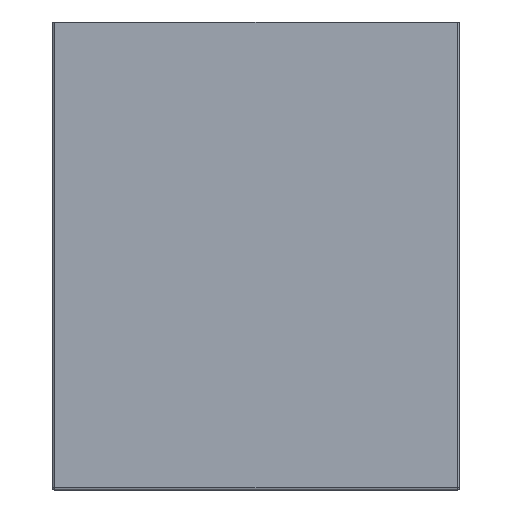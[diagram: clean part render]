
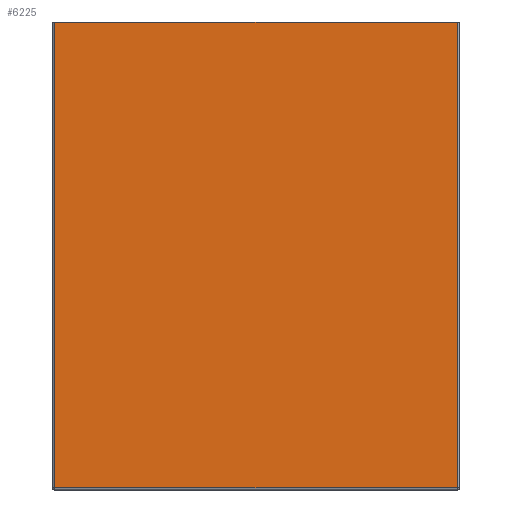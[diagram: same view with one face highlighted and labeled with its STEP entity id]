
A CAD part, left-side view. The second image highlights one B-rep face of the part: STEP entity #6225.
In plain terms, the highlighted planar face has unit normal (-1, 0, 0).
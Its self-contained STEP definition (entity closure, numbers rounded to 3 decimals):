
#6207=AXIS2_PLACEMENT_3D('Plane Axis2P3D',#6204,#6205,#6206) ;
#5817=CARTESIAN_POINT('Vertex',(-300.,-398.,460.)) ;
#5843=CARTESIAN_POINT('Vertex',(-300.,-2.,460.)) ;
#5846=CARTESIAN_POINT('Line Origine',(-300.,-200.,460.)) ;
#6017=CARTESIAN_POINT('Line Origine',(-300.,-105.,2.)) ;
#6021=CARTESIAN_POINT('Vertex',(-300.,-398.,2.)) ;
#6023=CARTESIAN_POINT('Vertex',(-300.,-2.,2.)) ;
#6204=CARTESIAN_POINT('Axis2P3D Location',(-300.,0.,0.)) ;
#6209=CARTESIAN_POINT('Line Origine',(-300.,-398.,231.)) ;
#6214=CARTESIAN_POINT('Line Origine',(-300.,-2.,231.)) ;
#5847=DIRECTION('Vector Direction',(0.,-1.,0.)) ;
#6018=DIRECTION('Vector Direction',(0.,1.,0.)) ;
#6205=DIRECTION('Axis2P3D Direction',(1.,0.,-0.)) ;
#6206=DIRECTION('Axis2P3D XDirection',(0.,0.,1.)) ;
#6210=DIRECTION('Vector Direction',(0.,0.,1.)) ;
#6215=DIRECTION('Vector Direction',(0.,0.,1.)) ;
#5848=VECTOR('Line Direction',#5847,1.) ;
#6019=VECTOR('Line Direction',#6018,1.) ;
#6211=VECTOR('Line Direction',#6210,1.) ;
#6216=VECTOR('Line Direction',#6215,1.) ;
#6220=ORIENTED_EDGE('',*,*,#6213,.T.) ;
#6221=ORIENTED_EDGE('',*,*,#5850,.T.) ;
#6222=ORIENTED_EDGE('',*,*,#6218,.F.) ;
#6223=ORIENTED_EDGE('',*,*,#6025,.F.) ;
#6225=ADVANCED_FACE('STRUTTURA',(#6224),#6208,.F.) ;
#5850=EDGE_CURVE('',#5818,#5844,#5849,.F.) ;
#6025=EDGE_CURVE('',#6022,#6024,#6020,.T.) ;
#6213=EDGE_CURVE('',#6022,#5818,#6212,.T.) ;
#6218=EDGE_CURVE('',#6024,#5844,#6217,.T.) ;
#6219=EDGE_LOOP('',(#6220,#6221,#6222,#6223)) ;
#6224=FACE_OUTER_BOUND('',#6219,.T.) ;
#5849=LINE('Line',#5846,#5848) ;
#6020=LINE('Line',#6017,#6019) ;
#6212=LINE('Line',#6209,#6211) ;
#6217=LINE('Line',#6214,#6216) ;
#6208=PLANE('Plane',#6207) ;
#5818=VERTEX_POINT('',#5817) ;
#5844=VERTEX_POINT('',#5843) ;
#6022=VERTEX_POINT('',#6021) ;
#6024=VERTEX_POINT('',#6023) ;
